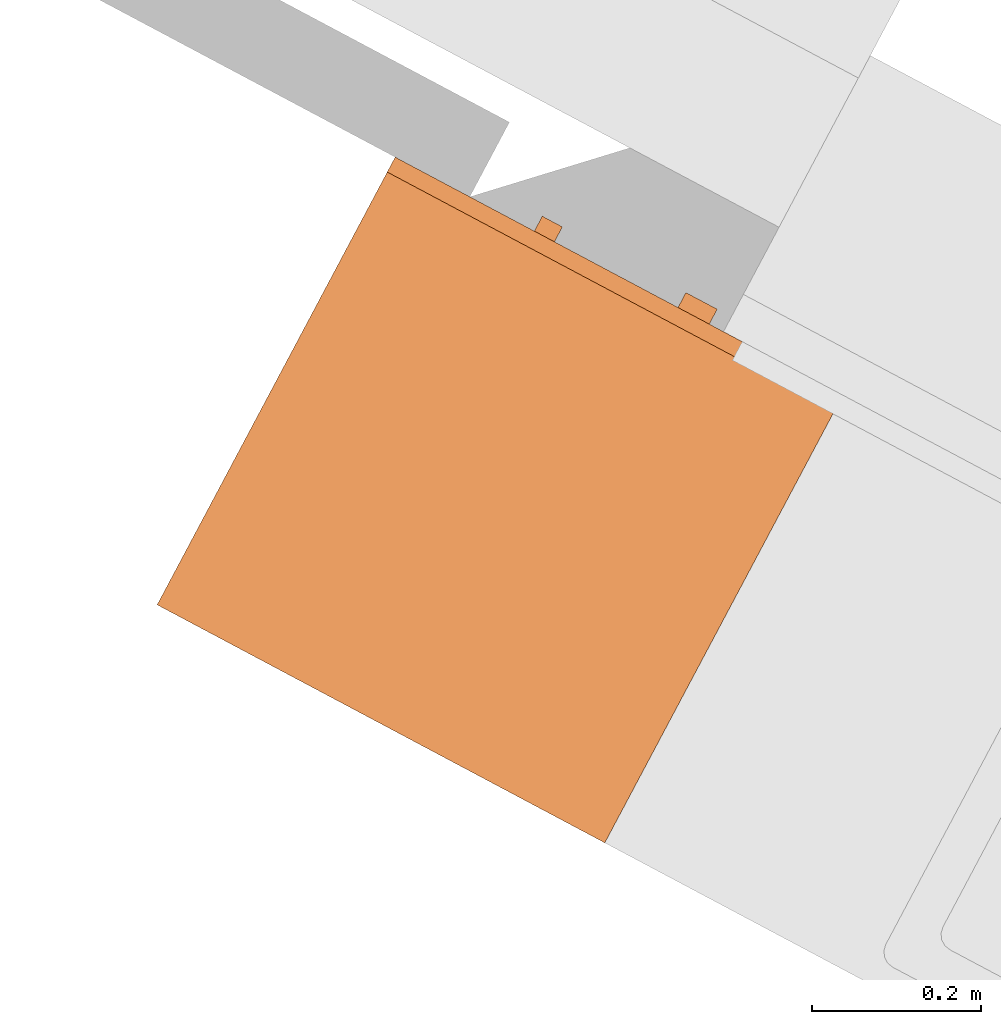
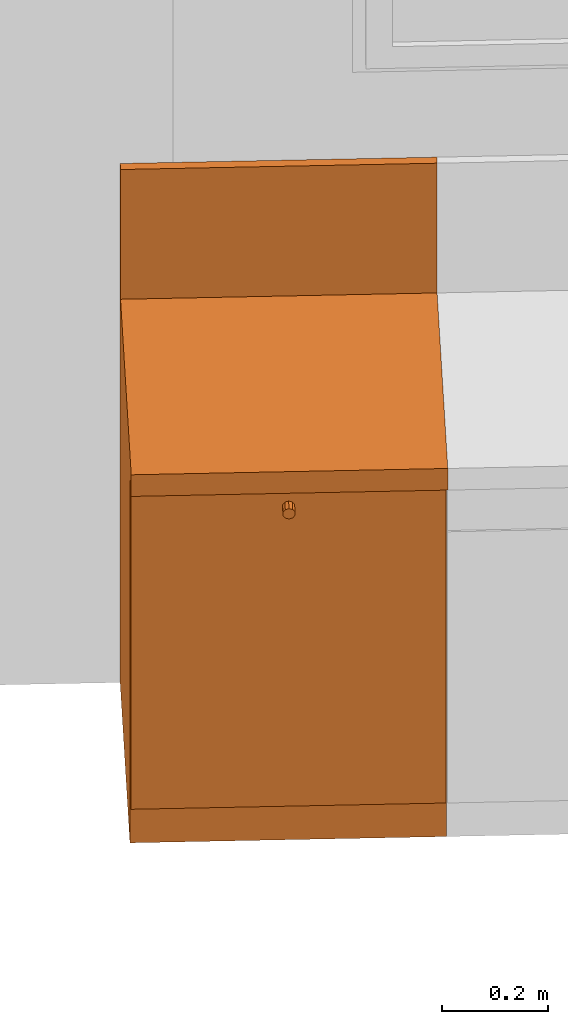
# One storey, part 26 of 27: 1 proxy.
"""IFC2X3 building model written with IfcOpenShell, lengths in metres."""

import ifcopenshell
import ifcopenshell.guid

model = None  # the IFC model being written
_history = None  # IfcOwnerHistory: only IFC2X3 demands one
_inside = {}  # id of a spatial element -> (the spatial element, [elements in it])
_under = {}  # id of a project, library or spatial element -> (it, [spatial elements below it])
_declared = {}  # id of a project -> (the project, [libraries it declares])
_typed = {}  # id of a type object -> (the type object, [elements of that type])
_made_of = {}  # id of a material, layer set ... -> (it, [elements and type objects made of it])


def new_model(schema):
    """Start an empty IFC model of exactly this schema.

    Asked for "IFC4X3", IfcOpenShell would pick the latest addendum, in which some entities
    have other attributes; the version numbers below select the first issue.
    IFC2X3 requires an IfcOwnerHistory on every rooted entity: one is made here for all.
    """
    global model, _history
    if schema == "IFC4X3":
        model = ifcopenshell.file(schema_version=(4, 3, 0, 0))
    else:
        model = ifcopenshell.file(schema=schema)
    _inside.clear()
    _under.clear()
    _declared.clear()
    _typed.clear()
    _made_of.clear()
    _history = None
    if model.schema == "IFC2X3":
        org = make("IfcOrganization", Name="unknown")
        user = make(
            "IfcPersonAndOrganization",
            ThePerson=make("IfcPerson", FamilyName="unknown"),
            TheOrganization=org,
        )
        app = make(
            "IfcApplication",
            ApplicationDeveloper=org,
            Version="unknown",
            ApplicationFullName="unknown",
            ApplicationIdentifier="unknown",
        )
        _history = make(
            "IfcOwnerHistory",
            OwningUser=user,
            OwningApplication=app,
            ChangeAction="ADDED",
            CreationDate=0,
        )
    return model


def make(cls, **values):
    """One entity of the class cls with the attributes given. An attribute that is None is left unset."""
    return model.create_entity(
        cls, **{name: value for name, value in values.items() if value is not None}
    )


def entity(cls, *values):
    """Any entity or typed value of the class cls, its attributes in the order of the schema. None: left unset."""
    e = model.create_entity(cls)
    for i, value in enumerate(values):
        if value is not None:
            e[i] = value
    return e


def rooted(cls, **values):
    """An entity with a GlobalId (a new one), such as an element, a storey or a relation."""
    return make(cls, GlobalId=ifcopenshell.guid.new(), OwnerHistory=_history, **values)


def si_unit(unit_type, name, prefix=None):
    """IfcSIUnit, for example si_unit("LENGTHUNIT", "METRE", prefix="MILLI")."""
    return make("IfcSIUnit", UnitType=unit_type, Prefix=prefix, Name=name)


def converted_unit(unit_type, name, factor, base, dimensions=None, offset=None):
    """IfcConversionBasedUnit, such as the inch: factor (a typed value) times the base unit."""
    return make(
        "IfcConversionBasedUnit"
        if offset is None
        else "IfcConversionBasedUnitWithOffset",
        ConversionOffset=offset,
        Dimensions=None
        if dimensions is None
        else entity("IfcDimensionalExponents", *dimensions),
        UnitType=unit_type,
        Name=name,
        ConversionFactor=make(
            "IfcMeasureWithUnit", ValueComponent=factor, UnitComponent=base
        ),
    )


def derived_unit(unit_type, elements):
    """IfcDerivedUnit: a product of units, each with its exponent."""
    return make(
        "IfcDerivedUnit",
        Elements=[
            make("IfcDerivedUnitElement", Unit=unit, Exponent=power)
            for unit, power in elements
        ],
        UnitType=unit_type,
    )


def money_unit(currency):
    """IfcMonetaryUnit."""
    return make("IfcMonetaryUnit", Currency=currency)


def assignment(units):
    """IfcUnitAssignment: the units of a project."""
    return None if units is None else make("IfcUnitAssignment", Units=units)


def point(xyz):
    """IfcCartesianPoint."""
    return None if xyz is None else make("IfcCartesianPoint", Coordinates=xyz)


def direction(xyz):
    """IfcDirection."""
    return None if xyz is None else make("IfcDirection", DirectionRatios=xyz)


def frame(location, z_axis=None, x_axis=None):
    """IfcAxis2Placement3D, a coordinate frame: its origin and axes. An axis left out is left unset."""
    return make(
        "IfcAxis2Placement3D",
        Location=point(location),
        Axis=direction(z_axis),
        RefDirection=direction(x_axis),
    )


def origin_with_axes():
    """The frame at (0, 0, 0) with the z axis (0, 0, 1) and the x axis (1, 0, 0) written out."""
    return frame((0.0, 0.0, 0.0), z_axis=(0.0, 0.0, 1.0), x_axis=(1.0, 0.0, 0.0))


def place(relative_to, where):
    """IfcLocalPlacement: puts the frame where relative to a parent placement (None: the world)."""
    return make(
        "IfcLocalPlacement", PlacementRelTo=relative_to, RelativePlacement=where
    )


def context(
    kind, dimensions, precision=None, world=None, true_north=None, identifier=None
):
    """IfcGeometricRepresentationContext, for example the 3D "Model" context."""
    return make(
        "IfcGeometricRepresentationContext",
        ContextIdentifier=identifier,
        ContextType=kind,
        CoordinateSpaceDimension=dimensions,
        Precision=precision,
        WorldCoordinateSystem=world,
        TrueNorth=true_north,
    )


def subcontext(parent, identifier, kind, view, scale=None):
    """IfcGeometricRepresentationSubContext, for example "Body" below "Model"."""
    return make(
        "IfcGeometricRepresentationSubContext",
        ContextIdentifier=identifier,
        ContextType=kind,
        ParentContext=parent,
        TargetScale=scale,
        TargetView=view,
    )


def project(units=None, contexts=None):
    """IfcProject with its units and contexts."""
    return rooted(
        "IfcProject",
        Name="project",
        RepresentationContexts=contexts,
        UnitsInContext=assignment(units),
    )


def spatial(cls, under=None, at=None, **own):
    """A site, building, storey or space (cls), placed at a placement, below another one or the project."""
    s = rooted(cls, ObjectPlacement=at, **own)
    if under is not None:
        _under.setdefault(under.id(), (under, []))[1].append(s)
    return s


def faces_of(points, faces, orient=None, outer=None):
    """IfcFace entities. A face is a list of loops; a loop is a list of indices into points, from 0.

    orient and outer hold one flag for each loop. By default every Orientation is true, the
    first loop of a face is its IfcFaceOuterBound and the others are IfcFaceBound.
    """
    made = []
    for i, loops in enumerate(faces):
        bounds = []
        for j, loop in enumerate(loops):
            is_outer = j == 0 if outer is None else outer[i][j]
            bounds.append(
                make(
                    "IfcFaceOuterBound" if is_outer else "IfcFaceBound",
                    Bound=make("IfcPolyLoop", Polygon=[points[k] for k in loop]),
                    Orientation=True if orient is None else orient[i][j],
                )
            )
        made.append(make("IfcFace", Bounds=bounds))
    return made


def open_shell(faces, orient=None, outer=None):
    """The faces of one IfcOpenShell. surface_model builds it on its shared points."""
    return ("IfcOpenShell", faces, orient, outer)


def faceted_brep(points, faces, orient=None, outer=None, voids=None):
    """IfcFacetedBrep: a solid bounded by flat faces; with voids (closed shells), ...WithVoids."""
    shared = [point(p) for p in points]
    hull = make("IfcClosedShell", CfsFaces=faces_of(shared, faces, orient, outer))
    if voids is None:
        return make("IfcFacetedBrep", Outer=hull)
    return make(
        "IfcFacetedBrepWithVoids",
        Outer=hull,
        Voids=[
            make(cls, CfsFaces=faces_of(shared, fs, o, b)) for cls, fs, o, b in voids
        ],
    )


def surface_model(cls, points, shells):
    """IfcFaceBasedSurfaceModel or IfcShellBasedSurfaceModel (cls): surfaces that need not close."""
    shared = [point(p) for p in points]
    made = [make(c, CfsFaces=faces_of(shared, fs, o, b)) for c, fs, o, b in shells]
    if cls == "IfcFaceBasedSurfaceModel":
        return make(cls, FbsmFaces=made)
    return make(cls, SbsmBoundary=made)


def shape(context_of_items, identifier, shape_type, items):
    """IfcShapeRepresentation: the items that make up one representation, for example the "Body"."""
    return make(
        "IfcShapeRepresentation",
        ContextOfItems=context_of_items,
        RepresentationIdentifier=identifier,
        RepresentationType=shape_type,
        Items=items,
    )


def made_of(thing, what):
    """Note that an element or type object is made of a material, layer set ...; save() writes the relation."""
    if what is not None:
        _made_of.setdefault(what.id(), (what, []))[1].append(thing)
    return thing


def type_object(cls, material=None, **own):
    """A type object (cls), such as IfcWallType, which elements share."""
    return made_of(rooted(cls, **own), material)


def element(
    cls,
    number,
    at=None,
    inside=None,
    cuts=None,
    type_object=None,
    material=None,
    context=None,
    identifier="Body",
    shape_type=None,
    held_by="IfcProductDefinitionShape",
    body=None,
    shapes=None,
    **own,
):
    """One element of the class cls, such as IfcWall. Its Tag is "e" and its number.

    at: its placement. inside: the storey or other place that contains it. cuts: it is an
    opening in that element (IfcRelVoidsElement). A single representation is given by context,
    identifier, shape_type and body (its items); several are given by shapes. held_by: the class
    of the entity that holds the representations. save() writes the other relations.
    """
    e = rooted(cls, Tag="e%d" % number, ObjectPlacement=at, **own)
    if body is not None:
        shapes = [shape(context, identifier, shape_type, body)]
    if shapes is not None:
        e.Representation = make(held_by, Representations=shapes)
    if inside is not None:
        _inside.setdefault(inside.id(), (inside, []))[1].append(e)
    if cuts is not None:
        rooted(
            "IfcRelVoidsElement", RelatingBuildingElement=cuts, RelatedOpeningElement=e
        )
    if type_object is not None:
        _typed.setdefault(type_object.id(), (type_object, []))[1].append(e)
    return made_of(e, material)


def aggregate(whole, parts):
    """IfcRelAggregates: a whole, such as a stair, and the parts it consists of."""
    return rooted("IfcRelAggregates", RelatingObject=whole, RelatedObjects=parts)


def save(model, path):
    """Write the relations noted so far, then the file.

    IfcRelAggregates (storeys below a building ...), IfcRelContainedInSpatialStructure (elements
    in a storey), IfcRelDefinesByType, IfcRelAssociatesMaterial and IfcRelDeclares: one each for
    every whole, place, type object, material and project.
    """
    for whole, parts in _under.values():
        aggregate(whole, parts)
    for where, things in _inside.values():
        rooted(
            "IfcRelContainedInSpatialStructure",
            RelatedElements=things,
            RelatingStructure=where,
        )
    for kind, things in _typed.values():
        rooted("IfcRelDefinesByType", RelatedObjects=things, RelatingType=kind)
    for what, things in _made_of.values():
        rooted("IfcRelAssociatesMaterial", RelatedObjects=things, RelatingMaterial=what)
    for by, libraries in _declared.values():
        rooted("IfcRelDeclares", RelatingContext=by, RelatedDefinitions=libraries)
    model.write(path)


model = new_model("IFC2X3")

# Units and contexts
model_context = context("Model", 3, precision=1e-05, world=origin_with_axes(), true_north=direction((0.0, 1.0)))
body_context = subcontext(model_context, "Body", "Model", "MODEL_VIEW")
ifc_project = project(units=[si_unit("LENGTHUNIT", "METRE"), si_unit("AREAUNIT", "SQUARE_METRE"), si_unit("VOLUMEUNIT", "CUBIC_METRE"), converted_unit("PLANEANGLEUNIT", "DEGREE", entity("IfcPlaneAngleMeasure", 0.0174532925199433), si_unit("PLANEANGLEUNIT", "RADIAN"), dimensions=[0, 0, 0, 0, 0, 0, 0]), money_unit("CHF"), converted_unit("TIMEUNIT", "Year", entity("IfcTimeMeasure", 31557600.0), si_unit("TIMEUNIT", "SECOND"), dimensions=[0, 0, 1, 0, 0, 0, 0]), si_unit("MASSUNIT", "GRAM", prefix="KILO"), si_unit("THERMODYNAMICTEMPERATUREUNIT", "DEGREE_CELSIUS"), si_unit("LUMINOUSINTENSITYUNIT", "LUMEN"), si_unit("ENERGYUNIT", "JOULE", prefix="MEGA"), derived_unit("THERMALCONDUCTANCEUNIT", [(si_unit("POWERUNIT", "WATT"), 1), (si_unit("LENGTHUNIT", "METRE"), -1), (si_unit("THERMODYNAMICTEMPERATUREUNIT", "KELVIN"), -1)]), derived_unit("SPECIFICHEATCAPACITYUNIT", [(si_unit("ENERGYUNIT", "JOULE"), 1), (si_unit("MASSUNIT", "GRAM", prefix="KILO"), -1), (si_unit("THERMODYNAMICTEMPERATUREUNIT", "KELVIN"), -1)]), derived_unit("MASSDENSITYUNIT", [(si_unit("MASSUNIT", "GRAM", prefix="KILO"), 1), (si_unit("VOLUMEUNIT", "CUBIC_METRE"), -1)])], contexts=[model_context])

# Site, building, storey
site_placement = place(None, frame((0.0, 0.0, 0.0), z_axis=(0.0, 0.0, 1.0), x_axis=(-0.4694715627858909, -0.8829475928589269, 0.0)))
site = spatial("IfcSite", under=ifc_project, at=site_placement, Name="Site", CompositionType="ELEMENT")
building_placement = place(site_placement, origin_with_axes())
building = spatial("IfcBuilding", under=site, at=building_placement, Name="Bâtiment", CompositionType="ELEMENT")
storey_placement = place(building_placement, origin_with_axes())
storey = spatial("IfcBuildingStorey", under=building, at=storey_placement, Name="RDC", CompositionType="ELEMENT", Elevation=0.0)

# Proxy
building_element_proxy_type = type_object("IfcBuildingElementProxyType", Name="Lave-vaisselle encastrable 27", PredefinedType="NOTDEFINED")
proxy_placement = place(storey_placement, frame((134.6295710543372, -831.73459910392, 0.0), z_axis=(0.0, 0.0, 1.0), x_axis=(0.0, 1.0, 0.0)))
element("IfcBuildingElementProxy", 1, at=proxy_placement, inside=storey, type_object=building_element_proxy_type, Name="Obj.-483", context=body_context, shape_type="SurfaceModel", body=[
    surface_model("IfcShellBasedSurfaceModel", [(0.2, 0.6, 0.6665000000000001), (0.196505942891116, 0.6, 0.6669600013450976), (0.196505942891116, 0.62, 0.6669600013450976), (0.2, 0.62, 0.6665000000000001), (0.19325, 0.6, 0.6683086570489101), (0.19325, 0.62, 0.6683086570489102), (0.203494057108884, 0.6, 0.6669600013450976), (0.203494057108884, 0.62, 0.6669600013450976), (0.1904540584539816, 0.6, 0.6704540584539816), (0.1904540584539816, 0.62, 0.6704540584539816), (0.20675, 0.6, 0.6683086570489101), (0.20675, 0.62, 0.6683086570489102), (0.1883086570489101, 0.6, 0.67325), (0.1883086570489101, 0.62, 0.67325), (0.2095459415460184, 0.6, 0.6704540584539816), (0.2095459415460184, 0.62, 0.6704540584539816), (0.1869600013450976, 0.6, 0.676505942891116), (0.1869600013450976, 0.62, 0.676505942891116), (0.2116913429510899, 0.6, 0.67325), (0.2116913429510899, 0.62, 0.67325), (0.1865, 0.6, 0.68), (0.1865, 0.62, 0.68), (0.2130399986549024, 0.6, 0.676505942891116), (0.2130399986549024, 0.62, 0.676505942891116), (0.1869600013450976, 0.6, 0.6834940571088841), (0.1869600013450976, 0.62, 0.6834940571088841), (0.2135, 0.6, 0.68), (0.2135, 0.62, 0.68), (0.1883086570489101, 0.6, 0.6867500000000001), (0.1883086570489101, 0.62, 0.6867500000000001), (0.2130399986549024, 0.6, 0.6834940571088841), (0.2130399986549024, 0.62, 0.6834940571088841), (0.1904540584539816, 0.6, 0.6895459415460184), (0.1904540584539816, 0.62, 0.6895459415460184), (0.2116913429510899, 0.6, 0.6867500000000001), (0.2116913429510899, 0.62, 0.6867500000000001), (0.19325, 0.6, 0.6916913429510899), (0.19325, 0.62, 0.69169134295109), (0.2095459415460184, 0.6, 0.6895459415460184), (0.2095459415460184, 0.62, 0.6895459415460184), (0.196505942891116, 0.6, 0.6930399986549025), (0.196505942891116, 0.62, 0.6930399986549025), (0.20675, 0.6, 0.69169134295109), (0.20675, 0.62, 0.69169134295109), (0.2, 0.6, 0.6935), (0.2, 0.62, 0.6935), (0.203494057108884, 0.6, 0.6930399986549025), (0.203494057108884, 0.62, 0.6930399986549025)], [open_shell([[[0, 1, 2, 3]], [[1, 4, 5, 2]], [[6, 0, 3, 7]], [[4, 8, 9, 5]], [[10, 6, 7, 11]], [[8, 12, 13, 9]], [[14, 10, 11, 15]], [[12, 16, 17, 13]], [[18, 14, 15, 19]], [[16, 20, 21, 17]], [[22, 18, 19, 23]], [[20, 24, 25, 21]], [[26, 22, 23, 27]], [[24, 28, 29, 25]], [[30, 26, 27, 31]], [[28, 32, 33, 29]], [[34, 30, 31, 35]], [[32, 36, 37, 33]], [[38, 34, 35, 39]], [[36, 40, 41, 37]], [[42, 38, 39, 43]], [[40, 44, 45, 41]], [[46, 42, 43, 47]], [[44, 46, 47, 45]]])]),
    surface_model("IfcShellBasedSurfaceModel", [(0.4, 0.6, 0.659), (0.3945648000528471, 0.6, 0.6597155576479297), (0.3945648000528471, 0.62, 0.6597155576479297), (0.4, 0.62, 0.659), (0.3895, 0.6, 0.6618134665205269), (0.3895, 0.62, 0.6618134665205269), (0.405435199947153, 0.6, 0.6597155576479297), (0.405435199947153, 0.62, 0.6597155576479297), (0.3851507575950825, 0.6, 0.6651507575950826), (0.3851507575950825, 0.62, 0.6651507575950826), (0.4105, 0.6, 0.6618134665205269), (0.4105, 0.62, 0.6618134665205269), (0.3818134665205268, 0.6, 0.6695000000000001), (0.3818134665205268, 0.62, 0.6695000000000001), (0.4148492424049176, 0.6, 0.6651507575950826), (0.4148492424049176, 0.62, 0.6651507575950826), (0.3797155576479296, 0.6, 0.6745648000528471), (0.3797155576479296, 0.62, 0.6745648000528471), (0.4181865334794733, 0.6, 0.6695000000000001), (0.4181865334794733, 0.62, 0.6695000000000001), (0.379, 0.6, 0.68), (0.379, 0.62, 0.68), (0.4202844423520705, 0.6, 0.6745648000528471), (0.4202844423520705, 0.62, 0.6745648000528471), (0.3797155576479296, 0.6, 0.685435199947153), (0.3797155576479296, 0.62, 0.685435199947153), (0.421, 0.6, 0.68), (0.421, 0.62, 0.68), (0.3818134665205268, 0.6, 0.6905), (0.3818134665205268, 0.62, 0.6905), (0.4202844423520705, 0.6, 0.685435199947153), (0.4202844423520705, 0.62, 0.685435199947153), (0.3851507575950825, 0.6, 0.6948492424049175), (0.3851507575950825, 0.62, 0.6948492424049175), (0.4181865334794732, 0.6, 0.6905000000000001), (0.4181865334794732, 0.62, 0.6905000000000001), (0.3895, 0.6, 0.6981865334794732), (0.3895, 0.62, 0.6981865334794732), (0.4148492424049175, 0.6, 0.6948492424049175), (0.4148492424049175, 0.62, 0.6948492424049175), (0.3945648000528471, 0.6, 0.7002844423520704), (0.3945648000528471, 0.62, 0.7002844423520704), (0.4105, 0.6, 0.6981865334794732), (0.4105, 0.62, 0.6981865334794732), (0.4, 0.6, 0.7010000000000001), (0.4, 0.62, 0.7010000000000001), (0.4054351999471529, 0.6, 0.7002844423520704), (0.4054351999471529, 0.62, 0.7002844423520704)], [open_shell([[[0, 1, 2, 3]], [[1, 4, 5, 2]], [[6, 0, 3, 7]], [[4, 8, 9, 5]], [[10, 6, 7, 11]], [[8, 12, 13, 9]], [[14, 10, 11, 15]], [[12, 16, 17, 13]], [[18, 14, 15, 19]], [[16, 20, 21, 17]], [[22, 18, 19, 23]], [[20, 24, 25, 21]], [[26, 22, 23, 27]], [[24, 28, 29, 25]], [[30, 26, 27, 31]], [[28, 32, 33, 29]], [[34, 30, 31, 35]], [[32, 36, 37, 33]], [[38, 34, 35, 39]], [[36, 40, 41, 37]], [[42, 38, 39, 43]], [[40, 44, 45, 41]], [[46, 42, 43, 47]], [[44, 46, 47, 45]]])]),
    faceted_brep([(0.0, 0.07, 0.0), (0.6, 0.07, 0.0), (0.6, 0.07, 0.09), (0.0, 0.07, 0.09), (0.0, 0.6, 0.0), (0.6, 0.6, 0.0), (0.6, 0.6, 0.09), (0.0, 0.6, 0.09)], [[[0, 1, 2, 3]], [[0, 4, 5, 1]], [[1, 5, 6, 2]], [[3, 2, 6, 7]], [[4, 0, 3, 7]], [[5, 4, 7, 6]]]),
    faceted_brep([(0.0, 0.07, 0.83), (0.02, 0.07, 0.83), (0.02, 0.07, 0.85), (0.0, 0.07, 0.85), (0.0, 0.6, 0.83), (0.02, 0.6, 0.83), (0.58, 0.6, 0.83), (0.6, 0.6, 0.83), (0.6, 0.07, 0.83), (0.58, 0.07, 0.83), (0.58, 0.07, 0.85), (0.6, 0.07, 0.85), (0.6, 0.6, 0.85), (0.58, 0.6, 0.85), (0.02, 0.6, 0.85), (0.0, 0.6, 0.85)], [[[0, 1, 2, 3]], [[0, 4, 5, 6, 7, 8, 9, 1]], [[1, 9, 10, 2]], [[3, 2, 10, 11, 12, 13, 14, 15]], [[4, 0, 3, 15]], [[5, 4, 15, 14]], [[6, 5, 14, 13]], [[7, 6, 13, 12]], [[8, 7, 12, 11]], [[9, 8, 11, 10]]]),
    faceted_brep([(0.0, 0.07, 0.09), (0.02, 0.07, 0.09), (0.02, 0.07, 0.11), (0.0, 0.07, 0.11), (0.0, 0.6, 0.09), (0.02, 0.6, 0.09), (0.58, 0.6, 0.09), (0.6, 0.6, 0.09), (0.6, 0.07, 0.09), (0.58, 0.07, 0.09), (0.58, 0.07, 0.11), (0.6, 0.07, 0.11), (0.6, 0.6, 0.11), (0.58, 0.6, 0.11), (0.02, 0.6, 0.11), (0.0, 0.6, 0.11)], [[[0, 1, 2, 3]], [[0, 4, 5, 6, 7, 8, 9, 1]], [[1, 9, 10, 2]], [[3, 2, 10, 11, 12, 13, 14, 15]], [[4, 0, 3, 15]], [[5, 4, 15, 14]], [[6, 5, 14, 13]], [[7, 6, 13, 12]], [[8, 7, 12, 11]], [[9, 8, 11, 10]]]),
    faceted_brep([(0.0, 0.07, 0.11), (0.02, 0.07, 0.11), (0.02, 0.07, 0.83), (0.0, 0.07, 0.83), (0.0, 0.6, 0.11), (0.6, 0.6, 0.11), (0.6, 0.07, 0.11), (0.58, 0.07, 0.11), (0.58, 0.58, 0.11), (0.02, 0.58, 0.11), (0.02, 0.58, 0.83), (0.58, 0.58, 0.83), (0.58, 0.07, 0.83), (0.6, 0.07, 0.83), (0.6, 0.6, 0.83), (0.0, 0.6, 0.83)], [[[0, 1, 2, 3]], [[0, 4, 5, 6, 7, 8, 9, 1]], [[1, 9, 10, 2]], [[3, 2, 10, 11, 12, 13, 14, 15]], [[4, 0, 3, 15]], [[5, 4, 15, 14]], [[6, 5, 14, 13]], [[7, 6, 13, 12]], [[8, 7, 12, 11]], [[9, 8, 11, 10]]]),
    faceted_brep([(0.0, 0.0, 0.85), (0.6, 0.0, 0.85), (0.6, 0.0, 0.9), (0.0, 0.0, 0.9), (0.0, 0.6, 0.85), (0.6, 0.6, 0.85), (0.6, 0.6, 0.9), (0.0, 0.6, 0.9)], [[[0, 1, 2, 3]], [[0, 4, 5, 1]], [[1, 5, 6, 2]], [[3, 2, 6, 7]], [[4, 0, 3, 7]], [[5, 4, 7, 6]]]),
    faceted_brep([(0.0, 0.58, 0.9), (0.6, 0.58, 0.9), (0.6, 0.58, 1.2), (0.0, 0.58, 1.2), (0.0, 0.6, 0.9), (0.6, 0.6, 0.9), (0.6, 0.6, 1.2), (0.0, 0.6, 1.2)], [[[0, 1, 2, 3]], [[0, 4, 5, 1]], [[1, 5, 6, 2]], [[3, 2, 6, 7]], [[4, 0, 3, 7]], [[5, 4, 7, 6]]]),
    faceted_brep([(0.001500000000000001, 0.07, 0.0915), (0.5985, 0.07, 0.0915), (0.5985, 0.05, 0.0915), (0.001500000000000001, 0.05, 0.0915), (0.001500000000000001, 0.07000000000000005, 0.8485), (0.5985, 0.07000000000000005, 0.8485), (0.5985, 0.05000000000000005, 0.8485), (0.001500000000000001, 0.05000000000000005, 0.8485)], [[[0, 1, 2, 3]], [[0, 4, 5, 1]], [[1, 5, 6, 2]], [[3, 2, 6, 7]], [[4, 0, 3, 7]], [[5, 4, 7, 6]]]),
    faceted_brep([(0.2929465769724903, 0.05, 0.7752917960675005), (0.2885873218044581, 0.05, 0.7812917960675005), (0.2885873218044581, 0.05, 0.7887082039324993), (0.2929465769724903, 0.05, 0.7947082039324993), (0.3, 0.05, 0.7969999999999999), (0.3070534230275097, 0.05, 0.7947082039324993), (0.3114126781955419, 0.05, 0.7887082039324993), (0.3114126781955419, 0.05, 0.7812917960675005), (0.3070534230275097, 0.05, 0.7752917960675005), (0.3, 0.05, 0.7729999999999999), (0.2929465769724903, 0.025, 0.7752917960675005), (0.2885873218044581, 0.025, 0.7812917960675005), (0.2885873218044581, 0.025, 0.7887082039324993), (0.2929465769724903, 0.025, 0.7947082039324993), (0.3, 0.025, 0.7969999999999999), (0.3070534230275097, 0.025, 0.7947082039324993), (0.3114126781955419, 0.025, 0.7887082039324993), (0.3114126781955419, 0.025, 0.7812917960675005), (0.3070534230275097, 0.025, 0.7752917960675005), (0.3, 0.025, 0.7729999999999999)], [[[0, 1, 2, 3, 4, 5, 6, 7, 8, 9]], [[1, 0, 10, 11]], [[2, 1, 11, 12]], [[3, 2, 12, 13]], [[4, 3, 13, 14]], [[5, 4, 14, 15]], [[6, 5, 15, 16]], [[7, 6, 16, 17]], [[8, 7, 17, 18]], [[9, 8, 18, 19]], [[0, 9, 19, 10]], [[10, 19, 18, 17, 16, 15, 14, 13, 12, 11]]]),
])

save(model, "model.ifc")
